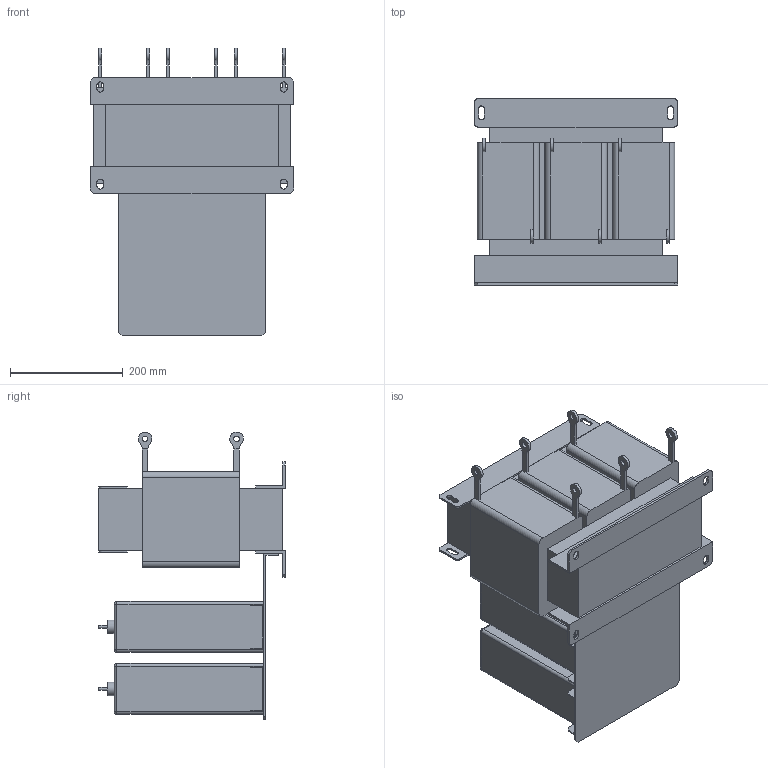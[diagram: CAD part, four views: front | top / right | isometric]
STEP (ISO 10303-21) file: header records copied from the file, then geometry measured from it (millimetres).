
FILE_DESCRIPTION(/* description */ (''),/* implementation_level */ '2;1');
FILE_NAME(/* name */ 'Sin-T6-110.stp',/* time_stamp */ '2025-03-05T17:00:06+04:00',/* author */ ('Лео'),/* organization */ (''),/* preprocessor_version */ 'ST-DEVELOPER v19.2',/* originating_system */ 'Autodesk Inventor 2024',/* authorisation */ '');
FILE_SCHEMA (('AUTOMOTIVE_DESIGN { 1 0 10303 214 3 1 1 }'));
Length unit declared in the file: millimetre
Products named in the file (1): Sin-T4-004
Bounding box: 360 x 330 x 509.96 mm (x, y, z)
Volume: 25419020.2 mm3; surface area: 1475804.1 mm2
Topology: 26 solids, 26 shells, 316 faces, 740 edges, 482 vertices
Faces by surface type: plane 212, cylinder 96, sphere 8
Full cylindrical faces by diameter (mm): 5 x6, 10 x6, 24 x6
Entity records: 9074 total; most frequent: DIRECTION 1566, CARTESIAN_POINT 1539, ORIENTED_EDGE 1480, EDGE_CURVE 740, LINE 548, VECTOR 548, AXIS2_PLACEMENT_3D 509, VERTEX_POINT 482
